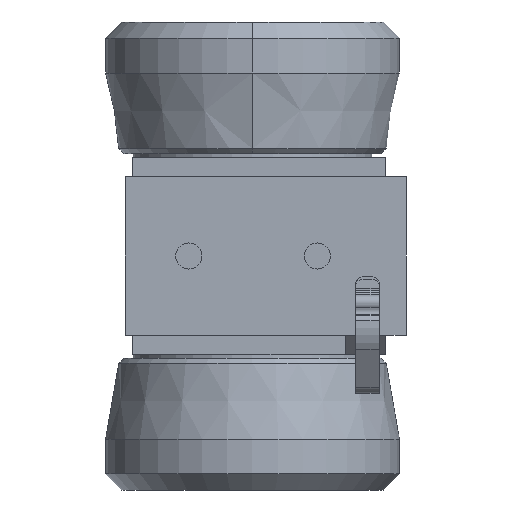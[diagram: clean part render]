
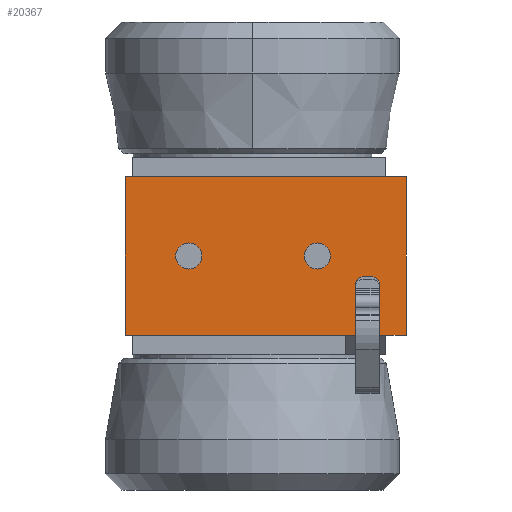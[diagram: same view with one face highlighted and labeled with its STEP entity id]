
A CAD part, front view. The second image highlights one B-rep face of the part: STEP entity #20367.
In plain terms, the highlighted planar face has unit normal (0, -1, 0).
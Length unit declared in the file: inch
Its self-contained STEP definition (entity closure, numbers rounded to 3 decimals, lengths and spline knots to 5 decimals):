
#467 = AXIS2_PLACEMENT_3D ( 'NONE', #21638, #21640, #21904 ) ;
#474 = AXIS2_PLACEMENT_3D ( 'NONE', #22532, #22531, #22530 ) ;
#475 = AXIS2_PLACEMENT_3D ( 'NONE', #21857, #22541, #21869 ) ;
#501 = AXIS2_PLACEMENT_3D ( 'NONE', #21703, #22536, #21610 ) ;
#1871 = EDGE_LOOP ( 'NONE', ( #4537, #4538 ) ) ;
#1875 = EDGE_LOOP ( 'NONE', ( #4539, #4540, #4541, #4542, #4543, #4544, #4545, #4546, #4547, #4548 ) ) ;
#1903 = EDGE_LOOP ( 'NONE', ( #4535, #4536 ) ) ;
#4196 = AXIS2_PLACEMENT_3D ( 'NONE', #16458, #16459, #16460 ) ;
#4535 = ORIENTED_EDGE ( 'NONE', *, *, #6760, .T. ) ;
#4536 = ORIENTED_EDGE ( 'NONE', *, *, #26462, .T. ) ;
#4537 = ORIENTED_EDGE ( 'NONE', *, *, #6727, .T. ) ;
#4538 = ORIENTED_EDGE ( 'NONE', *, *, #26710, .T. ) ;
#4539 = ORIENTED_EDGE ( 'NONE', *, *, #6728, .T. ) ;
#4540 = ORIENTED_EDGE ( 'NONE', *, *, #6763, .F. ) ;
#4541 = ORIENTED_EDGE ( 'NONE', *, *, #6764, .T. ) ;
#4542 = ORIENTED_EDGE ( 'NONE', *, *, #6777, .T. ) ;
#4543 = ORIENTED_EDGE ( 'NONE', *, *, #6817, .T. ) ;
#4544 = ORIENTED_EDGE ( 'NONE', *, *, #6759, .T. ) ;
#4545 = ORIENTED_EDGE ( 'NONE', *, *, #6769, .T. ) ;
#4546 = ORIENTED_EDGE ( 'NONE', *, *, #6770, .F. ) ;
#4547 = ORIENTED_EDGE ( 'NONE', *, *, #6775, .F. ) ;
#4548 = ORIENTED_EDGE ( 'NONE', *, *, #6776, .F. ) ;
#6466 = VERTEX_POINT ( 'NONE', #7627 ) ;
#6467 = VERTEX_POINT ( 'NONE', #7626 ) ;
#6468 = VERTEX_POINT ( 'NONE', #7625 ) ;
#6471 = VERTEX_POINT ( 'NONE', #7620 ) ;
#6472 = VERTEX_POINT ( 'NONE', #7618 ) ;
#6473 = VERTEX_POINT ( 'NONE', #7617 ) ;
#6474 = VERTEX_POINT ( 'NONE', #7616 ) ;
#6479 = VERTEX_POINT ( 'NONE', #7611 ) ;
#6482 = VERTEX_POINT ( 'NONE', #7604 ) ;
#6498 = VERTEX_POINT ( 'NONE', #7550 ) ;
#6727 = EDGE_CURVE ( 'NONE', #13707, #13704, #17614, .T. ) ;
#6728 = EDGE_CURVE ( 'NONE', #6498, #6471, #17612, .T. ) ;
#6759 = EDGE_CURVE ( 'NONE', #6482, #6473, #17649, .T. ) ;
#6760 = EDGE_CURVE ( 'NONE', #13703, #13701, #17650, .T. ) ;
#6763 = EDGE_CURVE ( 'NONE', #6474, #6471, #17652, .T. ) ;
#6764 = EDGE_CURVE ( 'NONE', #6474, #6466, #17654, .T. ) ;
#6769 = EDGE_CURVE ( 'NONE', #6473, #6467, #17662, .T. ) ;
#6770 = EDGE_CURVE ( 'NONE', #6468, #6467, #17663, .T. ) ;
#6775 = EDGE_CURVE ( 'NONE', #6472, #6468, #17672, .T. ) ;
#6776 = EDGE_CURVE ( 'NONE', #6498, #6472, #17674, .T. ) ;
#6777 = EDGE_CURVE ( 'NONE', #6466, #6479, #17667, .T. ) ;
#6817 = EDGE_CURVE ( 'NONE', #6479, #6482, #17737, .T. ) ;
#7550 = CARTESIAN_POINT ( 'NONE',  ( -1.981, -2.493, 1.23 ) ) ;
#7604 = CARTESIAN_POINT ( 'NONE',  ( 1.852, -2.493, -0.324 ) ) ;
#7611 = CARTESIAN_POINT ( 'NONE',  ( 1.726, -2.493, -0.324 ) ) ;
#7616 = CARTESIAN_POINT ( 'NONE',  ( 1.601, -2.493, -1.23 ) ) ;
#7617 = CARTESIAN_POINT ( 'NONE',  ( 1.977, -2.493, -0.449 ) ) ;
#7618 = CARTESIAN_POINT ( 'NONE',  ( 2.394, -2.493, 1.23 ) ) ;
#7620 = CARTESIAN_POINT ( 'NONE',  ( -1.981, -2.493, -1.23 ) ) ;
#7625 = CARTESIAN_POINT ( 'NONE',  ( 2.394, -2.493, -1.23 ) ) ;
#7626 = CARTESIAN_POINT ( 'NONE',  ( 1.977, -2.493, -1.23 ) ) ;
#7627 = CARTESIAN_POINT ( 'NONE',  ( 1.601, -2.493, -0.449 ) ) ;
#10468 = CIRCLE ( 'NONE', #23396, 0.203 ) ;
#10808 = CIRCLE ( 'NONE', #23429, 0.203 ) ;
#12676 = CARTESIAN_POINT ( 'NONE',  ( 1.009, -2.493, 0. ) ) ;
#12678 = DIRECTION ( 'NONE',  ( 0., 1., 0. ) ) ;
#12680 = DIRECTION ( 'NONE',  ( 0., 0., 1. ) ) ;
#13701 = VERTEX_POINT ( 'NONE', #26994 ) ;
#13703 = VERTEX_POINT ( 'NONE', #26992 ) ;
#13704 = VERTEX_POINT ( 'NONE', #26990 ) ;
#13707 = VERTEX_POINT ( 'NONE', #26987 ) ;
#14382 = FACE_OUTER_BOUND ( 'NONE', #1875, .T. ) ;
#14387 = FACE_BOUND ( 'NONE', #1903, .T. ) ;
#14389 = FACE_BOUND ( 'NONE', #1871, .T. ) ;
#16451 = PLANE ( 'NONE',  #4196 ) ;
#16458 = CARTESIAN_POINT ( 'NONE',  ( -2.356, -2.493, 1.23 ) ) ;
#16459 = DIRECTION ( 'NONE',  ( 0., -1., 0. ) ) ;
#16460 = DIRECTION ( 'NONE',  ( 0., 0., -1. ) ) ;
#17612 = LINE ( 'NONE', #21612, #17618 ) ;
#17614 = CIRCLE ( 'NONE', #501, 0.203 ) ;
#17618 = VECTOR ( 'NONE', #22553, 39.37008 ) ;
#17649 = CIRCLE ( 'NONE', #475, 0.125 ) ;
#17650 = CIRCLE ( 'NONE', #474, 0.203 ) ;
#17652 = LINE ( 'NONE', #22527, #17656 ) ;
#17654 = LINE ( 'NONE', #22521, #17658 ) ;
#17656 = VECTOR ( 'NONE', #22529, 39.37008 ) ;
#17658 = VECTOR ( 'NONE', #22508, 39.37008 ) ;
#17662 = LINE ( 'NONE', #22576, #17664 ) ;
#17663 = LINE ( 'NONE', #22598, #17666 ) ;
#17664 = VECTOR ( 'NONE', #21496, 39.37008 ) ;
#17666 = VECTOR ( 'NONE', #22579, 39.37008 ) ;
#17667 = CIRCLE ( 'NONE', #467, 0.125 ) ;
#17672 = LINE ( 'NONE', #22315, #17675 ) ;
#17674 = LINE ( 'NONE', #22282, #17677 ) ;
#17675 = VECTOR ( 'NONE', #22298, 39.37008 ) ;
#17677 = VECTOR ( 'NONE', #22605, 39.37008 ) ;
#17737 = LINE ( 'NONE', #22540, #17742 ) ;
#17742 = VECTOR ( 'NONE', #22171, 39.37008 ) ;
#20367 = ADVANCED_FACE ( 'NONE', ( #14387, #14389, #14382 ), #16451, .T. ) ;
#21496 = DIRECTION ( 'NONE',  ( 0., 0., -1. ) ) ;
#21610 = DIRECTION ( 'NONE',  ( 0., 0., 1. ) ) ;
#21612 = CARTESIAN_POINT ( 'NONE',  ( -1.981, -2.493, -1.23 ) ) ;
#21638 = CARTESIAN_POINT ( 'NONE',  ( 1.726, -2.493, -0.449 ) ) ;
#21640 = DIRECTION ( 'NONE',  ( 0., 1., 0. ) ) ;
#21703 = CARTESIAN_POINT ( 'NONE',  ( -0.991, -2.493, 0. ) ) ;
#21857 = CARTESIAN_POINT ( 'NONE',  ( 1.852, -2.493, -0.449 ) ) ;
#21869 = DIRECTION ( 'NONE',  ( 0., 0., 1. ) ) ;
#21904 = DIRECTION ( 'NONE',  ( 0., 0., 1. ) ) ;
#22171 = DIRECTION ( 'NONE',  ( 1., 0., 0. ) ) ;
#22282 = CARTESIAN_POINT ( 'NONE',  ( -2.356, -2.493, 1.23 ) ) ;
#22298 = DIRECTION ( 'NONE',  ( 0., 0., -1. ) ) ;
#22315 = CARTESIAN_POINT ( 'NONE',  ( 2.394, -2.493, 1.23 ) ) ;
#22508 = DIRECTION ( 'NONE',  ( 0., 0., 1. ) ) ;
#22521 = CARTESIAN_POINT ( 'NONE',  ( 1.601, -2.493, -1.23 ) ) ;
#22527 = CARTESIAN_POINT ( 'NONE',  ( -2.356, -2.493, -1.23 ) ) ;
#22529 = DIRECTION ( 'NONE',  ( -1., 0., 0. ) ) ;
#22530 = DIRECTION ( 'NONE',  ( 0., 0., 1. ) ) ;
#22531 = DIRECTION ( 'NONE',  ( 0., 1., 0. ) ) ;
#22532 = CARTESIAN_POINT ( 'NONE',  ( 1.009, -2.493, 0. ) ) ;
#22536 = DIRECTION ( 'NONE',  ( 0., 1., 0. ) ) ;
#22540 = CARTESIAN_POINT ( 'NONE',  ( 1.726, -2.493, -0.324 ) ) ;
#22541 = DIRECTION ( 'NONE',  ( 0., 1., 0. ) ) ;
#22553 = DIRECTION ( 'NONE',  ( 0., 0., -1. ) ) ;
#22576 = CARTESIAN_POINT ( 'NONE',  ( 1.977, -2.493, -0.449 ) ) ;
#22579 = DIRECTION ( 'NONE',  ( -1., 0., 0. ) ) ;
#22598 = CARTESIAN_POINT ( 'NONE',  ( -2.356, -2.493, -1.23 ) ) ;
#22605 = DIRECTION ( 'NONE',  ( 1., 0., 0. ) ) ;
#23396 = AXIS2_PLACEMENT_3D ( 'NONE', #12676, #12678, #12680 ) ;
#23429 = AXIS2_PLACEMENT_3D ( 'NONE', #25533, #25534, #25535 ) ;
#25533 = CARTESIAN_POINT ( 'NONE',  ( -0.991, -2.493, 0. ) ) ;
#25534 = DIRECTION ( 'NONE',  ( 0., 1., 0. ) ) ;
#25535 = DIRECTION ( 'NONE',  ( 0., 0., 1. ) ) ;
#26462 = EDGE_CURVE ( 'NONE', #13701, #13703, #10468, .T. ) ;
#26710 = EDGE_CURVE ( 'NONE', #13704, #13707, #10808, .T. ) ;
#26987 = CARTESIAN_POINT ( 'NONE',  ( -0.991, -2.493, 0.203 ) ) ;
#26990 = CARTESIAN_POINT ( 'NONE',  ( -0.991, -2.493, -0.203 ) ) ;
#26992 = CARTESIAN_POINT ( 'NONE',  ( 1.009, -2.493, 0.203 ) ) ;
#26994 = CARTESIAN_POINT ( 'NONE',  ( 1.009, -2.493, -0.203 ) ) ;
